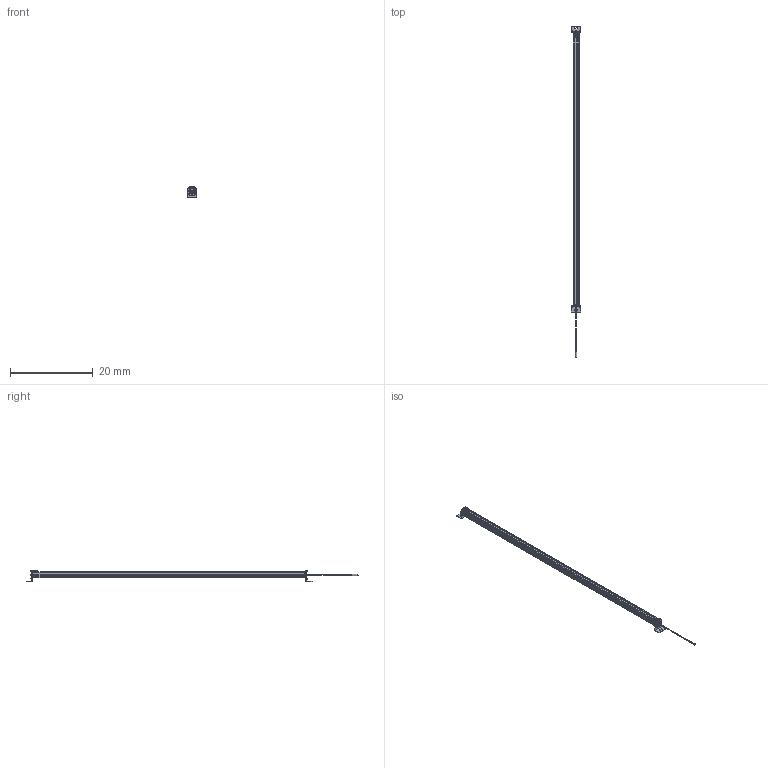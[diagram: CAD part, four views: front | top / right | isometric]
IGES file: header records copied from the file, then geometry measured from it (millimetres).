
Start section:  Autodesk DirectConnect version 7.0.27.0 ---- IGES version 5.3
Global section: file name: C:\ACADFILES\SS_PYLONS\CUSTOMER_FILES\SS-64-PYLON_3D_SMB.iges; native system: Autodesk DirectConnect 7.0.27.0; preprocessor: 7.0.27.0; author: ENGINEERMAIN; organization: Unknown; date: 20150810.125854; units: millimetre
Bounding box: 2.26 x 80.01 x 2.75 mm (x, y, z)
Surface area: 1010.2 mm2 (no closed solid volume)
Topology: 0 solids, 0 shells, 754 faces, 3833 edges, 3829 vertices
Faces by surface type: bspline 754
